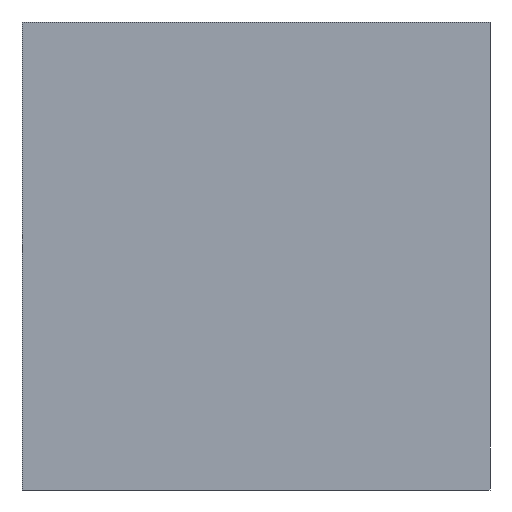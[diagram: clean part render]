
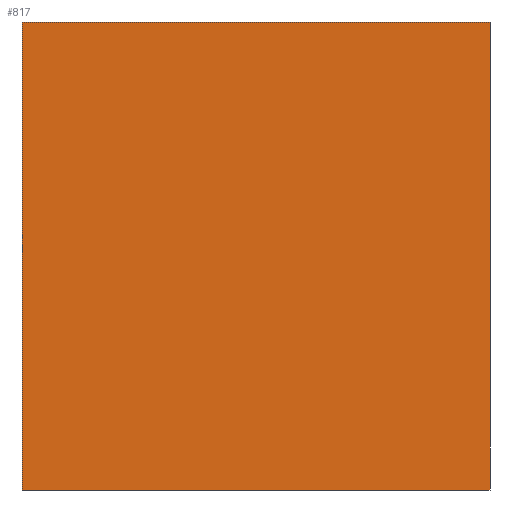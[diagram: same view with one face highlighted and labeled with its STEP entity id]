
A CAD part, left-side view. The second image highlights one B-rep face of the part: STEP entity #817.
In plain terms, the highlighted planar face has unit normal (-1, 0, 0).
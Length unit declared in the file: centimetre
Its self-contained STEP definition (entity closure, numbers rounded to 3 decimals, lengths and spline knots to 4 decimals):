
#58 = LINE ( 'NONE', #359, #758 ) ;
#61 = VERTEX_POINT ( 'NONE', #215 ) ;
#93 = CARTESIAN_POINT ( 'NONE',  ( 0., 1000., 1000. ) ) ;
#103 = EDGE_LOOP ( 'NONE', ( #822, #732, #540, #150 ) ) ;
#131 = PLANE ( 'NONE',  #603 ) ;
#146 = VECTOR ( 'NONE', #253, 100. ) ;
#150 = ORIENTED_EDGE ( 'NONE', *, *, #367, .T. ) ;
#165 = DIRECTION ( 'NONE',  ( 0., 0., -1. ) ) ;
#181 = CARTESIAN_POINT ( 'NONE',  ( 0., 0., 1000. ) ) ;
#215 = CARTESIAN_POINT ( 'NONE',  ( 0., 0., 0. ) ) ;
#253 = DIRECTION ( 'NONE',  ( 0., 0., -1. ) ) ;
#310 = CARTESIAN_POINT ( 'NONE',  ( 0., 1000., 0. ) ) ;
#312 = VERTEX_POINT ( 'NONE', #525 ) ;
#313 = DIRECTION ( 'NONE',  ( 1., 0., 0. ) ) ;
#355 = DIRECTION ( 'NONE',  ( 0., -1., 0. ) ) ;
#359 = CARTESIAN_POINT ( 'NONE',  ( 0., 1000., 1000. ) ) ;
#367 = EDGE_CURVE ( 'NONE', #665, #762, #664, .T. ) ;
#428 = LINE ( 'NONE', #181, #146 ) ;
#480 = LINE ( 'NONE', #601, #495 ) ;
#495 = VECTOR ( 'NONE', #355, 100. ) ;
#503 = EDGE_CURVE ( 'NONE', #762, #61, #480, .T. ) ;
#525 = CARTESIAN_POINT ( 'NONE',  ( 0., 0., 1000. ) ) ;
#528 = DIRECTION ( 'NONE',  ( 0., 0., -1. ) ) ;
#540 = ORIENTED_EDGE ( 'NONE', *, *, #691, .F. ) ;
#556 = CARTESIAN_POINT ( 'NONE',  ( 0., 1000., 1000. ) ) ;
#601 = CARTESIAN_POINT ( 'NONE',  ( 0., 1000., 0. ) ) ;
#603 = AXIS2_PLACEMENT_3D ( 'NONE', #633, #313, #165 ) ;
#612 = DIRECTION ( 'NONE',  ( 0., -1., 0. ) ) ;
#633 = CARTESIAN_POINT ( 'NONE',  ( 0., 1000., 1000. ) ) ;
#664 = LINE ( 'NONE', #93, #730 ) ;
#665 = VERTEX_POINT ( 'NONE', #556 ) ;
#691 = EDGE_CURVE ( 'NONE', #665, #312, #58, .T. ) ;
#705 = FACE_OUTER_BOUND ( 'NONE', #103, .T. ) ;
#730 = VECTOR ( 'NONE', #528, 100. ) ;
#732 = ORIENTED_EDGE ( 'NONE', *, *, #809, .F. ) ;
#758 = VECTOR ( 'NONE', #612, 100. ) ;
#762 = VERTEX_POINT ( 'NONE', #310 ) ;
#809 = EDGE_CURVE ( 'NONE', #312, #61, #428, .T. ) ;
#817 = ADVANCED_FACE ( 'NONE', ( #705 ), #131, .F. ) ;
#822 = ORIENTED_EDGE ( 'NONE', *, *, #503, .T. ) ;
